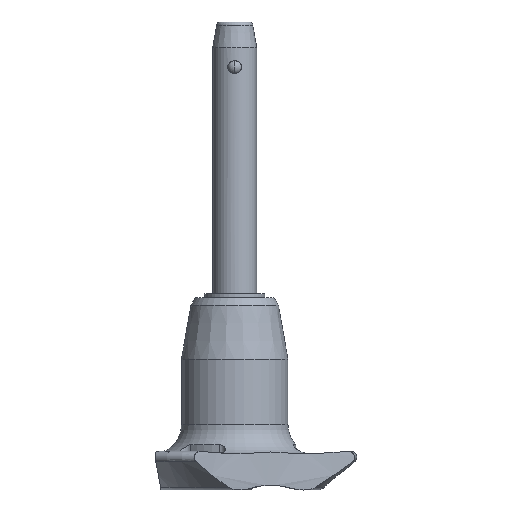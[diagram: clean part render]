
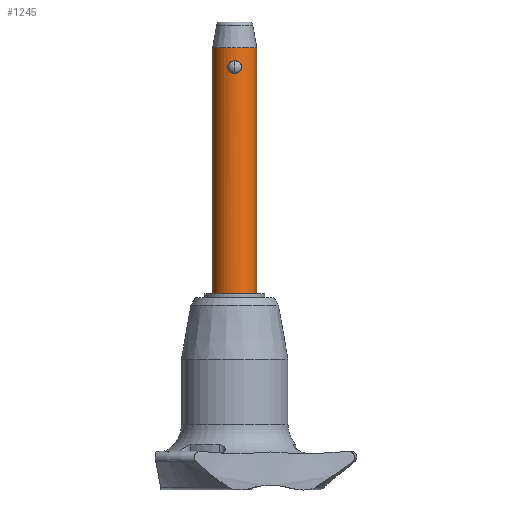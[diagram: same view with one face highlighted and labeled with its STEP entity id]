
A CAD part, front view. The second image highlights one B-rep face of the part: STEP entity #1245.
In plain terms, the highlighted cylindrical face has radius 3 mm (diameter 6 mm), a partial arc.
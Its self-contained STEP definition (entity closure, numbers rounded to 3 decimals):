
#53 = EDGE_CURVE ( 'NONE', #2661, #107, #203, .T. ) ;
#61 = CARTESIAN_POINT ( 'NONE',  ( 3., 0., 3.5 ) ) ;
#95 = EDGE_LOOP ( 'NONE', ( #1917, #622 ) ) ;
#107 = VERTEX_POINT ( 'NONE', #642 ) ;
#177 = CIRCLE ( 'NONE', #1106, 3. ) ;
#188 = CARTESIAN_POINT ( 'NONE',  ( 0., -3., 0. ) ) ;
#201 = CARTESIAN_POINT ( 'NONE',  ( 0.564, -2.948, 1.57 ) ) ;
#203 = B_SPLINE_CURVE_WITH_KNOTS ( 'NONE', 3,
 ( #211, #2458, #1849, #2488, #2673, #2106, #832, #422, #2120, #1838, #2699, #1695, #2519, #366, #1631, #597, #2280, #377 ),
 .UNSPECIFIED., .F., .F.,
 ( 4, 2, 2, 2, 2, 2, 2, 2, 4 ),
 ( 0., 0., 0.001, 0.001, 0.001, 0.002, 0.002, 0.002, 0.003 ),
 .UNSPECIFIED. ) ;
#211 = CARTESIAN_POINT ( 'NONE',  ( 0., -3., 1.732 ) ) ;
#214 = CARTESIAN_POINT ( 'NONE',  ( 3., 0., -30. ) ) ;
#216 = VECTOR ( 'NONE', #1300, 1000. ) ;
#312 = CARTESIAN_POINT ( 'NONE',  ( -3., 0., -30. ) ) ;
#344 = AXIS2_PLACEMENT_3D ( 'NONE', #2496, #2471, #1722 ) ;
#359 = CARTESIAN_POINT ( 'NONE',  ( 0., 0., 3.5 ) ) ;
#366 = CARTESIAN_POINT ( 'NONE',  ( -0.564, -2.948, 0.162 ) ) ;
#377 = CARTESIAN_POINT ( 'NONE',  ( 0., -3., 0. ) ) ;
#393 = DIRECTION ( 'NONE',  ( 0., 0., 1. ) ) ;
#410 = CARTESIAN_POINT ( 'NONE',  ( 0.459, -2.967, 0.101 ) ) ;
#422 = CARTESIAN_POINT ( 'NONE',  ( -0.91, -2.859, 1.105 ) ) ;
#453 = CARTESIAN_POINT ( 'NONE',  ( -3., 0., -30. ) ) ;
#462 = CARTESIAN_POINT ( 'NONE',  ( 0., -3., 1.732 ) ) ;
#597 = CARTESIAN_POINT ( 'NONE',  ( -0.238, -2.993, 0.021 ) ) ;
#622 = ORIENTED_EDGE ( 'NONE', *, *, #2580, .F. ) ;
#642 = CARTESIAN_POINT ( 'NONE',  ( 0., -3., 0. ) ) ;
#643 = CARTESIAN_POINT ( 'NONE',  ( 0.74, -2.909, 1.414 ) ) ;
#644 = CYLINDRICAL_SURFACE ( 'NONE', #2169, 3. ) ;
#752 = ORIENTED_EDGE ( 'NONE', *, *, #1721, .T. ) ;
#781 = CIRCLE ( 'NONE', #344, 3. ) ;
#819 = CARTESIAN_POINT ( 'NONE',  ( 0., 0., -30. ) ) ;
#832 = CARTESIAN_POINT ( 'NONE',  ( -0.811, -2.889, 1.319 ) ) ;
#845 = CARTESIAN_POINT ( 'NONE',  ( 0.937, -2.85, 0.744 ) ) ;
#868 = CARTESIAN_POINT ( 'NONE',  ( -3., 0., 3.5 ) ) ;
#939 = EDGE_CURVE ( 'NONE', #2116, #1434, #781, .T. ) ;
#976 = EDGE_LOOP ( 'NONE', ( #2046, #1163, #2627, #752 ) ) ;
#1047 = CARTESIAN_POINT ( 'NONE',  ( 0.911, -2.859, 1.103 ) ) ;
#1064 = CARTESIAN_POINT ( 'NONE',  ( 0.91, -2.859, 0.626 ) ) ;
#1076 = CARTESIAN_POINT ( 'NONE',  ( 0., -3., 1.732 ) ) ;
#1077 = FACE_OUTER_BOUND ( 'NONE', #976, .T. ) ;
#1106 = AXIS2_PLACEMENT_3D ( 'NONE', #359, #1659, #1201 ) ;
#1163 = ORIENTED_EDGE ( 'NONE', *, *, #939, .F. ) ;
#1201 = DIRECTION ( 'NONE',  ( 1., 0., 0. ) ) ;
#1222 = CARTESIAN_POINT ( 'NONE',  ( 0.812, -2.888, 1.317 ) ) ;
#1245 = ADVANCED_FACE ( 'NONE', ( #1077, #1719 ), #644, .T. ) ;
#1257 = CARTESIAN_POINT ( 'NONE',  ( 0.811, -2.889, 0.412 ) ) ;
#1273 = EDGE_CURVE ( 'NONE', #2116, #2657, #1680, .T. ) ;
#1282 = CARTESIAN_POINT ( 'NONE',  ( 0.12, -3., 1.732 ) ) ;
#1300 = DIRECTION ( 'NONE',  ( 0., 0., 1. ) ) ;
#1382 = B_SPLINE_CURVE_WITH_KNOTS ( 'NONE', 3,
 ( #188, #2281, #2329, #410, #1880, #2700, #1257, #1064, #845, #2107, #1047, #1222, #643, #201, #2339, #1489, #1282, #1076 ),
 .UNSPECIFIED., .F., .F.,
 ( 4, 2, 2, 2, 2, 2, 2, 2, 4 ),
 ( 0.003, 0.003, 0.004, 0.004, 0.004, 0.005, 0.005, 0.005, 0.006 ),
 .UNSPECIFIED. ) ;
#1434 = VERTEX_POINT ( 'NONE', #312 ) ;
#1489 = CARTESIAN_POINT ( 'NONE',  ( 0.238, -2.993, 1.712 ) ) ;
#1631 = CARTESIAN_POINT ( 'NONE',  ( -0.46, -2.967, 0.101 ) ) ;
#1659 = DIRECTION ( 'NONE',  ( 0., 0., -1. ) ) ;
#1680 = LINE ( 'NONE', #214, #2631 ) ;
#1695 = CARTESIAN_POINT ( 'NONE',  ( -0.812, -2.889, 0.414 ) ) ;
#1719 = FACE_BOUND ( 'NONE', #95, .T. ) ;
#1721 = EDGE_CURVE ( 'NONE', #2657, #2397, #177, .T. ) ;
#1722 = DIRECTION ( 'NONE',  ( 1., 0., 0. ) ) ;
#1838 = CARTESIAN_POINT ( 'NONE',  ( -0.937, -2.85, 0.749 ) ) ;
#1849 = CARTESIAN_POINT ( 'NONE',  ( -0.238, -2.993, 1.712 ) ) ;
#1880 = CARTESIAN_POINT ( 'NONE',  ( 0.563, -2.948, 0.162 ) ) ;
#1917 = ORIENTED_EDGE ( 'NONE', *, *, #53, .F. ) ;
#1922 = EDGE_CURVE ( 'NONE', #1434, #2397, #1994, .T. ) ;
#1994 = LINE ( 'NONE', #453, #216 ) ;
#2046 = ORIENTED_EDGE ( 'NONE', *, *, #1922, .F. ) ;
#2076 = CARTESIAN_POINT ( 'NONE',  ( 3., 0., -30. ) ) ;
#2106 = CARTESIAN_POINT ( 'NONE',  ( -0.739, -2.909, 1.414 ) ) ;
#2107 = CARTESIAN_POINT ( 'NONE',  ( 0.937, -2.85, 0.985 ) ) ;
#2116 = VERTEX_POINT ( 'NONE', #2076 ) ;
#2120 = CARTESIAN_POINT ( 'NONE',  ( -0.937, -2.85, 0.986 ) ) ;
#2169 = AXIS2_PLACEMENT_3D ( 'NONE', #819, #2490, #2354 ) ;
#2280 = CARTESIAN_POINT ( 'NONE',  ( -0.118, -3., 0. ) ) ;
#2281 = CARTESIAN_POINT ( 'NONE',  ( 0.118, -3., 0. ) ) ;
#2329 = CARTESIAN_POINT ( 'NONE',  ( 0.238, -2.993, 0.021 ) ) ;
#2339 = CARTESIAN_POINT ( 'NONE',  ( 0.461, -2.966, 1.63 ) ) ;
#2354 = DIRECTION ( 'NONE',  ( 1., 0., 0. ) ) ;
#2397 = VERTEX_POINT ( 'NONE', #868 ) ;
#2458 = CARTESIAN_POINT ( 'NONE',  ( -0.12, -3., 1.732 ) ) ;
#2471 = DIRECTION ( 'NONE',  ( 0., 0., -1. ) ) ;
#2488 = CARTESIAN_POINT ( 'NONE',  ( -0.461, -2.967, 1.63 ) ) ;
#2490 = DIRECTION ( 'NONE',  ( 0., 0., 1. ) ) ;
#2496 = CARTESIAN_POINT ( 'NONE',  ( 0., 0., -30. ) ) ;
#2519 = CARTESIAN_POINT ( 'NONE',  ( -0.74, -2.909, 0.318 ) ) ;
#2580 = EDGE_CURVE ( 'NONE', #107, #2661, #1382, .T. ) ;
#2627 = ORIENTED_EDGE ( 'NONE', *, *, #1273, .T. ) ;
#2631 = VECTOR ( 'NONE', #393, 1000. ) ;
#2657 = VERTEX_POINT ( 'NONE', #61 ) ;
#2661 = VERTEX_POINT ( 'NONE', #462 ) ;
#2673 = CARTESIAN_POINT ( 'NONE',  ( -0.563, -2.948, 1.57 ) ) ;
#2699 = CARTESIAN_POINT ( 'NONE',  ( -0.911, -2.859, 0.63 ) ) ;
#2700 = CARTESIAN_POINT ( 'NONE',  ( 0.738, -2.909, 0.317 ) ) ;
